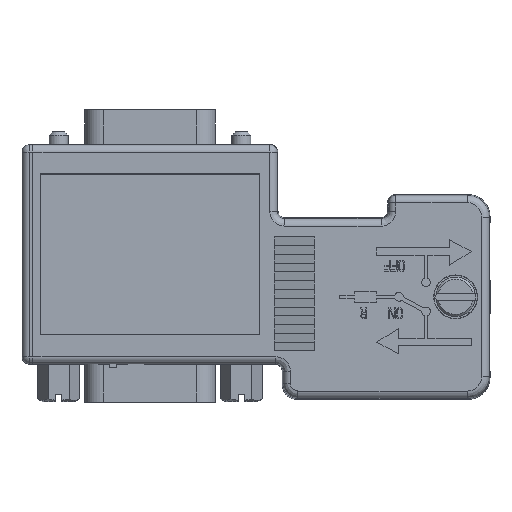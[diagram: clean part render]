
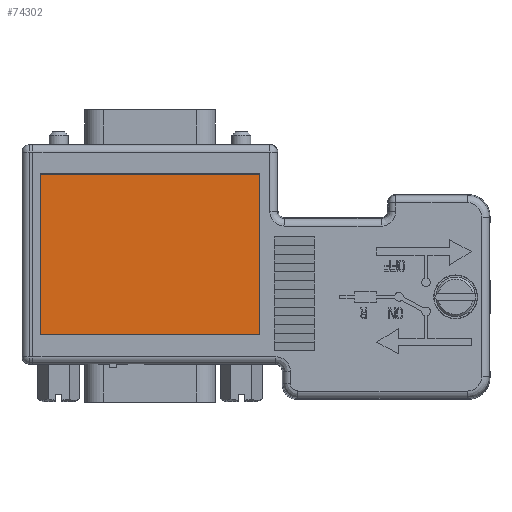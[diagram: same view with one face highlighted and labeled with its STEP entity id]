
A CAD part, top view. The second image highlights one B-rep face of the part: STEP entity #74302.
In plain terms, the highlighted planar face has unit normal (0, 0, 1).
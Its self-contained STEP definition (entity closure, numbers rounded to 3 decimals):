
#30707 = PLANE('',#30708);
#30708 = AXIS2_PLACEMENT_3D('',#30709,#30710,#30711);
#30709 = CARTESIAN_POINT('',(0.,-11.,7.7));
#30710 = DIRECTION('',(0.,-1.,0.));
#30711 = DIRECTION('',(0.,0.,-1.));
#30735 = PLANE('',#30736);
#30736 = AXIS2_PLACEMENT_3D('',#30737,#30738,#30739);
#30737 = CARTESIAN_POINT('',(-15.,0.,7.7));
#30738 = DIRECTION('',(-1.,0.,0.));
#30739 = DIRECTION('',(0.,0.,1.));
#30763 = PLANE('',#30764);
#30764 = AXIS2_PLACEMENT_3D('',#30765,#30766,#30767);
#30765 = CARTESIAN_POINT('',(0.,11.,7.7));
#30766 = DIRECTION('',(0.,1.,0.));
#30767 = DIRECTION('',(0.,0.,1.));
#30789 = PLANE('',#30790);
#30790 = AXIS2_PLACEMENT_3D('',#30791,#30792,#30793);
#30791 = CARTESIAN_POINT('',(15.,0.,7.7));
#30792 = DIRECTION('',(1.,0.,0.));
#30793 = DIRECTION('',(0.,0.,-1.));
#41866 = VERTEX_POINT('',#41867);
#41867 = CARTESIAN_POINT('',(15.,-11.,8.5));
#41888 = EDGE_CURVE('',#41889,#41866,#41891,.T.);
#41889 = VERTEX_POINT('',#41890);
#41890 = CARTESIAN_POINT('',(-15.,-11.,8.5));
#41891 = SURFACE_CURVE('',#41892,(#41896,#41903),.PCURVE_S1.);
#41892 = LINE('',#41893,#41894);
#41893 = CARTESIAN_POINT('',(-15.,-11.,8.5));
#41894 = VECTOR('',#41895,1.);
#41895 = DIRECTION('',(1.,0.,0.));
#41896 = PCURVE('',#30707,#41897);
#41897 = DEFINITIONAL_REPRESENTATION('',(#41898),#41902);
#41898 = LINE('',#41899,#41900);
#41899 = CARTESIAN_POINT('',(-0.8,-15.));
#41900 = VECTOR('',#41901,1.);
#41901 = DIRECTION('',(0.,1.));
#41902 = ( GEOMETRIC_REPRESENTATION_CONTEXT(2) 
PARAMETRIC_REPRESENTATION_CONTEXT() REPRESENTATION_CONTEXT('2D SPACE',''
  ) );
#41903 = PCURVE('',#41904,#41909);
#41904 = PLANE('',#41905);
#41905 = AXIS2_PLACEMENT_3D('',#41906,#41907,#41908);
#41906 = CARTESIAN_POINT('',(18.,-18.7,8.5));
#41907 = DIRECTION('',(0.,0.,1.));
#41908 = DIRECTION('',(0.,-1.,0.));
#41909 = DEFINITIONAL_REPRESENTATION('',(#41910),#41914);
#41910 = LINE('',#41911,#41912);
#41911 = CARTESIAN_POINT('',(-7.7,-33.));
#41912 = VECTOR('',#41913,1.);
#41913 = DIRECTION('',(0.,1.));
#41914 = ( GEOMETRIC_REPRESENTATION_CONTEXT(2) 
PARAMETRIC_REPRESENTATION_CONTEXT() REPRESENTATION_CONTEXT('2D SPACE',''
  ) );
#41942 = EDGE_CURVE('',#41943,#41889,#41945,.T.);
#41943 = VERTEX_POINT('',#41944);
#41944 = CARTESIAN_POINT('',(-15.,11.,8.5));
#41945 = SURFACE_CURVE('',#41946,(#41950,#41957),.PCURVE_S1.);
#41946 = LINE('',#41947,#41948);
#41947 = CARTESIAN_POINT('',(-15.,-18.7,8.5));
#41948 = VECTOR('',#41949,1.);
#41949 = DIRECTION('',(0.,-1.,0.));
#41950 = PCURVE('',#30735,#41951);
#41951 = DEFINITIONAL_REPRESENTATION('',(#41952),#41956);
#41952 = LINE('',#41953,#41954);
#41953 = CARTESIAN_POINT('',(0.8,-18.7));
#41954 = VECTOR('',#41955,1.);
#41955 = DIRECTION('',(0.,-1.));
#41956 = ( GEOMETRIC_REPRESENTATION_CONTEXT(2) 
PARAMETRIC_REPRESENTATION_CONTEXT() REPRESENTATION_CONTEXT('2D SPACE',''
  ) );
#41957 = PCURVE('',#41904,#41958);
#41958 = DEFINITIONAL_REPRESENTATION('',(#41959),#41963);
#41959 = LINE('',#41960,#41961);
#41960 = CARTESIAN_POINT('',(0.,-33.));
#41961 = VECTOR('',#41962,1.);
#41962 = DIRECTION('',(1.,0.));
#41963 = ( GEOMETRIC_REPRESENTATION_CONTEXT(2) 
PARAMETRIC_REPRESENTATION_CONTEXT() REPRESENTATION_CONTEXT('2D SPACE',''
  ) );
#41991 = EDGE_CURVE('',#41992,#41943,#41994,.T.);
#41992 = VERTEX_POINT('',#41993);
#41993 = CARTESIAN_POINT('',(15.,11.,8.5));
#41994 = SURFACE_CURVE('',#41995,(#41999,#42006),.PCURVE_S1.);
#41995 = LINE('',#41996,#41997);
#41996 = CARTESIAN_POINT('',(15.,11.,8.5));
#41997 = VECTOR('',#41998,1.);
#41998 = DIRECTION('',(-1.,0.,0.));
#41999 = PCURVE('',#30763,#42000);
#42000 = DEFINITIONAL_REPRESENTATION('',(#42001),#42005);
#42001 = LINE('',#42002,#42003);
#42002 = CARTESIAN_POINT('',(0.8,15.));
#42003 = VECTOR('',#42004,1.);
#42004 = DIRECTION('',(0.,-1.));
#42005 = ( GEOMETRIC_REPRESENTATION_CONTEXT(2) 
PARAMETRIC_REPRESENTATION_CONTEXT() REPRESENTATION_CONTEXT('2D SPACE',''
  ) );
#42006 = PCURVE('',#41904,#42007);
#42007 = DEFINITIONAL_REPRESENTATION('',(#42008),#42012);
#42008 = LINE('',#42009,#42010);
#42009 = CARTESIAN_POINT('',(-29.7,-3.));
#42010 = VECTOR('',#42011,1.);
#42011 = DIRECTION('',(0.,-1.));
#42012 = ( GEOMETRIC_REPRESENTATION_CONTEXT(2) 
PARAMETRIC_REPRESENTATION_CONTEXT() REPRESENTATION_CONTEXT('2D SPACE',''
  ) );
#42040 = EDGE_CURVE('',#41866,#41992,#42041,.T.);
#42041 = SURFACE_CURVE('',#42042,(#42046,#42053),.PCURVE_S1.);
#42042 = LINE('',#42043,#42044);
#42043 = CARTESIAN_POINT('',(15.,-11.,8.5));
#42044 = VECTOR('',#42045,1.);
#42045 = DIRECTION('',(0.,1.,0.));
#42046 = PCURVE('',#30789,#42047);
#42047 = DEFINITIONAL_REPRESENTATION('',(#42048),#42052);
#42048 = LINE('',#42049,#42050);
#42049 = CARTESIAN_POINT('',(-0.8,-11.));
#42050 = VECTOR('',#42051,1.);
#42051 = DIRECTION('',(0.,1.));
#42052 = ( GEOMETRIC_REPRESENTATION_CONTEXT(2) 
PARAMETRIC_REPRESENTATION_CONTEXT() REPRESENTATION_CONTEXT('2D SPACE',''
  ) );
#42053 = PCURVE('',#41904,#42054);
#42054 = DEFINITIONAL_REPRESENTATION('',(#42055),#42059);
#42055 = LINE('',#42056,#42057);
#42056 = CARTESIAN_POINT('',(-7.7,-3.));
#42057 = VECTOR('',#42058,1.);
#42058 = DIRECTION('',(-1.,0.));
#42059 = ( GEOMETRIC_REPRESENTATION_CONTEXT(2) 
PARAMETRIC_REPRESENTATION_CONTEXT() REPRESENTATION_CONTEXT('2D SPACE',''
  ) );
#74302 = ADVANCED_FACE('',(#74303),#41904,.T.);
#74303 = FACE_BOUND('',#74304,.T.);
#74304 = EDGE_LOOP('',(#74305,#74306,#74307,#74308));
#74305 = ORIENTED_EDGE('',*,*,#41991,.T.);
#74306 = ORIENTED_EDGE('',*,*,#41942,.T.);
#74307 = ORIENTED_EDGE('',*,*,#41888,.T.);
#74308 = ORIENTED_EDGE('',*,*,#42040,.T.);
